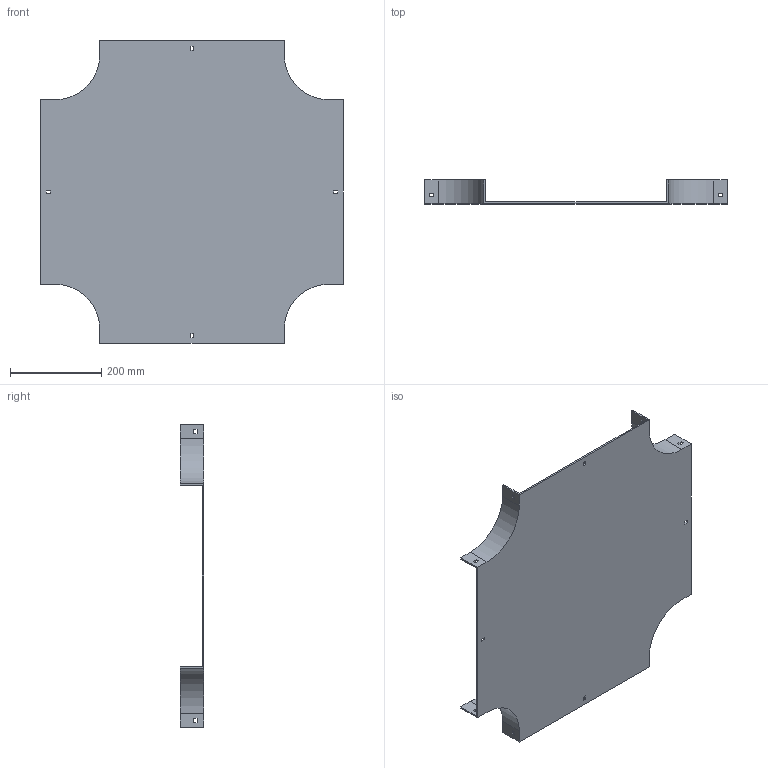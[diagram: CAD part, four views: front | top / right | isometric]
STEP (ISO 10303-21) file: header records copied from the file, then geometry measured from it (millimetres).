
FILE_DESCRIPTION (( 'STEP AP214' ), '1' );
FILE_NAME ('17F1B400.step', '2025-02-21T13:05:51', ( '' ), ( '' ), 'SwSTEP 2.0', 'SolidWorks 2023', '' );
FILE_SCHEMA (( 'AUTOMOTIVE_DESIGN' ));
Length unit declared in the file: millimetre
Products named in the file (1): 17F1B400
Bounding box: 664 x 52 x 664 mm (x, y, z)
Volume: 1483064.8 mm3; surface area: 858904.7 mm2
Topology: 1 solids, 1 shells, 82 faces, 240 edges, 160 vertices
Faces by surface type: plane 74, cylinder 8
Entity records: 2751 total; most frequent: CARTESIAN_POINT 483, ORIENTED_EDGE 480, DIRECTION 422, EDGE_CURVE 240, LINE 224, VECTOR 224, VERTEX_POINT 160, EDGE_LOOP 106
